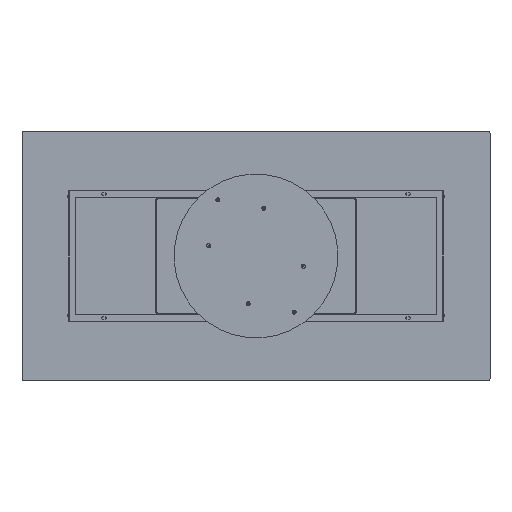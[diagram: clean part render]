
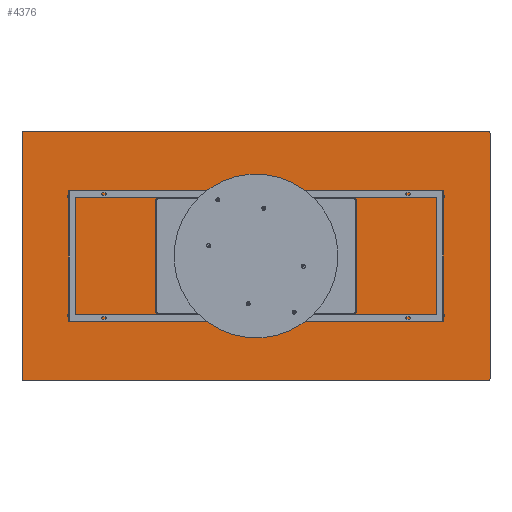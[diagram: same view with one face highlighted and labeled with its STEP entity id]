
A CAD part, front view. The second image highlights one B-rep face of the part: STEP entity #4376.
In plain terms, the highlighted planar face has unit normal (0, -1, 0).
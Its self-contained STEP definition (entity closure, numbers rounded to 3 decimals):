
#758 = ORIENTED_EDGE ( 'NONE', *, *, #2756, .F. ) ;
#1276 = EDGE_CURVE ( 'NONE', #4909, #6241, #9097, .T. ) ;
#1415 = AXIS2_PLACEMENT_3D ( 'NONE', #5767, #9050, #15364 ) ;
#1483 = DIRECTION ( 'NONE',  ( 0., -1., 0. ) ) ;
#1508 = CARTESIAN_POINT ( 'NONE',  ( 995., 0., 525. ) ) ;
#1713 = VECTOR ( 'NONE', #11369, 1000. ) ;
#2196 = CARTESIAN_POINT ( 'NONE',  ( -995., 0., -530. ) ) ;
#2626 = DIRECTION ( 'NONE',  ( 0., 0., 1. ) ) ;
#2756 = EDGE_CURVE ( 'NONE', #9601, #11769, #4716, .T. ) ;
#3118 = ORIENTED_EDGE ( 'NONE', *, *, #12698, .F. ) ;
#3685 = ORIENTED_EDGE ( 'NONE', *, *, #8682, .T. ) ;
#3827 = CIRCLE ( 'NONE', #8907, 5. ) ;
#4376 = ADVANCED_FACE ( 'NONE', ( #8837 ), #13764, .F. ) ;
#4716 = LINE ( 'NONE', #12720, #1713 ) ;
#4909 = VERTEX_POINT ( 'NONE', #10491 ) ;
#5620 = VERTEX_POINT ( 'NONE', #13261 ) ;
#5767 = CARTESIAN_POINT ( 'NONE',  ( 0., 0., 0. ) ) ;
#6221 = DIRECTION ( 'NONE',  ( 0., 0., 1. ) ) ;
#6241 = VERTEX_POINT ( 'NONE', #2196 ) ;
#6552 = EDGE_LOOP ( 'NONE', ( #758, #9359, #3118, #10110, #20512, #11709, #7477, #3685 ) ) ;
#6894 = AXIS2_PLACEMENT_3D ( 'NONE', #17381, #15715, #6221 ) ;
#7059 = EDGE_CURVE ( 'NONE', #9601, #14942, #13271, .T. ) ;
#7350 = CARTESIAN_POINT ( 'NONE',  ( -1000., 0., 530. ) ) ;
#7477 = ORIENTED_EDGE ( 'NONE', *, *, #9702, .F. ) ;
#8510 = LINE ( 'NONE', #15131, #12806 ) ;
#8682 = EDGE_CURVE ( 'NONE', #8955, #11769, #3827, .T. ) ;
#8837 = FACE_OUTER_BOUND ( 'NONE', #6552, .T. ) ;
#8907 = AXIS2_PLACEMENT_3D ( 'NONE', #16780, #1483, #11095 ) ;
#8955 = VERTEX_POINT ( 'NONE', #11624 ) ;
#9050 = DIRECTION ( 'NONE',  ( 0., 1., 0. ) ) ;
#9097 = CIRCLE ( 'NONE', #11434, 5. ) ;
#9210 = EDGE_CURVE ( 'NONE', #11338, #5620, #15958, .T. ) ;
#9336 = DIRECTION ( 'NONE',  ( 0., -1., 0. ) ) ;
#9359 = ORIENTED_EDGE ( 'NONE', *, *, #7059, .T. ) ;
#9539 = AXIS2_PLACEMENT_3D ( 'NONE', #1508, #9336, #18889 ) ;
#9601 = VERTEX_POINT ( 'NONE', #18502 ) ;
#9702 = EDGE_CURVE ( 'NONE', #8955, #6241, #16522, .T. ) ;
#10110 = ORIENTED_EDGE ( 'NONE', *, *, #9210, .T. ) ;
#10193 = DIRECTION ( 'NONE',  ( 0., 0., 1. ) ) ;
#10491 = CARTESIAN_POINT ( 'NONE',  ( -1000., 0., -525. ) ) ;
#10667 = CARTESIAN_POINT ( 'NONE',  ( -995., 0., -525. ) ) ;
#11095 = DIRECTION ( 'NONE',  ( 0., 0., 1. ) ) ;
#11338 = VERTEX_POINT ( 'NONE', #14913 ) ;
#11369 = DIRECTION ( 'NONE',  ( 0., 0., -1. ) ) ;
#11434 = AXIS2_PLACEMENT_3D ( 'NONE', #10667, #15402, #2626 ) ;
#11624 = CARTESIAN_POINT ( 'NONE',  ( 995., 0., -530. ) ) ;
#11709 = ORIENTED_EDGE ( 'NONE', *, *, #1276, .T. ) ;
#11769 = VERTEX_POINT ( 'NONE', #18343 ) ;
#11846 = CARTESIAN_POINT ( 'NONE',  ( 995., 0., 530. ) ) ;
#12698 = EDGE_CURVE ( 'NONE', #11338, #14942, #15472, .T. ) ;
#12720 = CARTESIAN_POINT ( 'NONE',  ( 1000., 0., -530. ) ) ;
#12806 = VECTOR ( 'NONE', #10193, 1000. ) ;
#13261 = CARTESIAN_POINT ( 'NONE',  ( -1000., 0., 525. ) ) ;
#13271 = CIRCLE ( 'NONE', #9539, 5. ) ;
#13764 = PLANE ( 'NONE',  #1415 ) ;
#14400 = EDGE_CURVE ( 'NONE', #4909, #5620, #8510, .T. ) ;
#14913 = CARTESIAN_POINT ( 'NONE',  ( -995., 0., 530. ) ) ;
#14942 = VERTEX_POINT ( 'NONE', #11846 ) ;
#15131 = CARTESIAN_POINT ( 'NONE',  ( -1000., 0., -530. ) ) ;
#15364 = DIRECTION ( 'NONE',  ( 0., 0., 1. ) ) ;
#15402 = DIRECTION ( 'NONE',  ( 0., -1., 0. ) ) ;
#15472 = LINE ( 'NONE', #7350, #19740 ) ;
#15715 = DIRECTION ( 'NONE',  ( 0., -1., 0. ) ) ;
#15958 = CIRCLE ( 'NONE', #6894, 5. ) ;
#16522 = LINE ( 'NONE', #19699, #17661 ) ;
#16780 = CARTESIAN_POINT ( 'NONE',  ( 995., 0., -525. ) ) ;
#17381 = CARTESIAN_POINT ( 'NONE',  ( -995., 0., 525. ) ) ;
#17661 = VECTOR ( 'NONE', #20004, 1000. ) ;
#18343 = CARTESIAN_POINT ( 'NONE',  ( 1000., 0., -525. ) ) ;
#18502 = CARTESIAN_POINT ( 'NONE',  ( 1000., 0., 525. ) ) ;
#18889 = DIRECTION ( 'NONE',  ( 0., 0., 1. ) ) ;
#19699 = CARTESIAN_POINT ( 'NONE',  ( -1000., 0., -530. ) ) ;
#19740 = VECTOR ( 'NONE', #19981, 1000. ) ;
#19981 = DIRECTION ( 'NONE',  ( 1., 0., 0. ) ) ;
#20004 = DIRECTION ( 'NONE',  ( -1., 0., 0. ) ) ;
#20512 = ORIENTED_EDGE ( 'NONE', *, *, #14400, .F. ) ;
